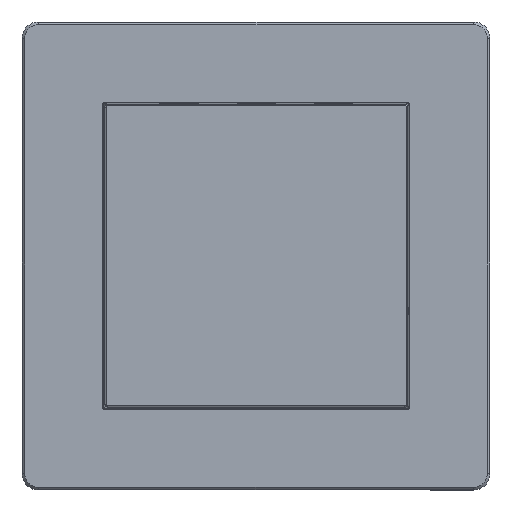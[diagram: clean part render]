
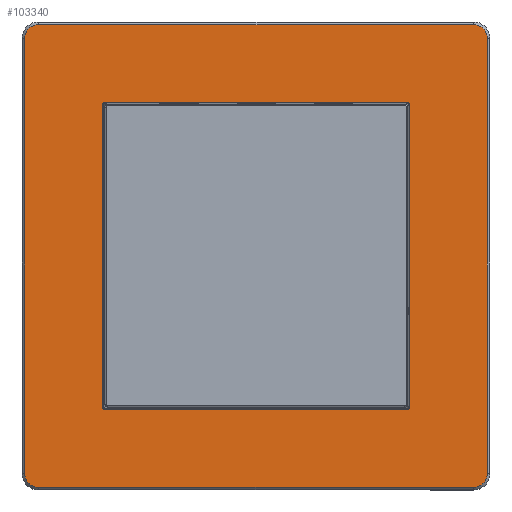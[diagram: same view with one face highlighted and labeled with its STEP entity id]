
A CAD part, top view. The second image highlights one B-rep face of the part: STEP entity #103340.
In plain terms, the highlighted planar face has unit normal (0, 0, 1) as drawn and (0, 1, 0) by its records, which use the part's own axes.
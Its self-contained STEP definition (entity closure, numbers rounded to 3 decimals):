
#5102=FACE_BOUND('',#18662,.T.);
#7890=PLANE('',#110436);
#12662=FACE_OUTER_BOUND('',#18661,.T.);
#18661=EDGE_LOOP('',(#90585,#90586,#90587,#90588,#90589,#90590,#90591,#90592));
#18662=EDGE_LOOP('',(#90593,#90594,#90595,#90596,#90597,#90598,#90599,#90600));
#28554=LINE('',#178685,#38852);
#28558=LINE('',#178697,#38856);
#28562=LINE('',#178708,#38860);
#28566=LINE('',#178717,#38864);
#28570=LINE('',#178729,#38868);
#28571=LINE('',#178733,#38869);
#28572=LINE('',#178737,#38870);
#28573=LINE('',#178741,#38871);
#38852=VECTOR('',#131604,79.);
#38856=VECTOR('',#131616,79.);
#38860=VECTOR('',#131628,79.);
#38864=VECTOR('',#131638,79.);
#38868=VECTOR('',#131654,54.8);
#38869=VECTOR('',#131657,54.8);
#38870=VECTOR('',#131660,54.8);
#38871=VECTOR('',#131663,54.8);
#42145=CIRCLE('',#110422,2.5);
#42147=CIRCLE('',#110426,2.5);
#42148=CIRCLE('',#110429,2.5);
#42149=CIRCLE('',#110432,2.5);
#42150=CIRCLE('',#110437,0.5);
#42151=CIRCLE('',#110438,0.5);
#42152=CIRCLE('',#110439,0.5);
#42153=CIRCLE('',#110440,0.5);
#50350=VERTEX_POINT('',#178682);
#50351=VERTEX_POINT('',#178684);
#50353=VERTEX_POINT('',#178690);
#50355=VERTEX_POINT('',#178695);
#50357=VERTEX_POINT('',#178702);
#50358=VERTEX_POINT('',#178706);
#50359=VERTEX_POINT('',#178711);
#50360=VERTEX_POINT('',#178715);
#50361=VERTEX_POINT('',#178727);
#50362=VERTEX_POINT('',#178728);
#50363=VERTEX_POINT('',#178730);
#50364=VERTEX_POINT('',#178732);
#50365=VERTEX_POINT('',#178734);
#50366=VERTEX_POINT('',#178736);
#50367=VERTEX_POINT('',#178738);
#50368=VERTEX_POINT('',#178740);
#64089=EDGE_CURVE('',#50350,#50351,#28554,.T.);
#64093=EDGE_CURVE('',#50353,#50350,#42145,.T.);
#64095=EDGE_CURVE('',#50355,#50353,#28558,.T.);
#64099=EDGE_CURVE('',#50357,#50355,#42147,.T.);
#64101=EDGE_CURVE('',#50358,#50357,#28562,.T.);
#64104=EDGE_CURVE('',#50359,#50358,#42148,.T.);
#64106=EDGE_CURVE('',#50360,#50359,#28566,.T.);
#64107=EDGE_CURVE('',#50351,#50360,#42149,.T.);
#64111=EDGE_CURVE('',#50361,#50362,#28570,.T.);
#64112=EDGE_CURVE('',#50363,#50362,#42150,.T.);
#64113=EDGE_CURVE('',#50363,#50364,#28571,.T.);
#64114=EDGE_CURVE('',#50365,#50364,#42151,.T.);
#64115=EDGE_CURVE('',#50365,#50366,#28572,.T.);
#64116=EDGE_CURVE('',#50367,#50366,#42152,.T.);
#64117=EDGE_CURVE('',#50367,#50368,#28573,.T.);
#64118=EDGE_CURVE('',#50361,#50368,#42153,.T.);
#90585=ORIENTED_EDGE('',*,*,#64089,.F.);
#90586=ORIENTED_EDGE('',*,*,#64093,.F.);
#90587=ORIENTED_EDGE('',*,*,#64095,.F.);
#90588=ORIENTED_EDGE('',*,*,#64099,.F.);
#90589=ORIENTED_EDGE('',*,*,#64101,.F.);
#90590=ORIENTED_EDGE('',*,*,#64104,.F.);
#90591=ORIENTED_EDGE('',*,*,#64106,.F.);
#90592=ORIENTED_EDGE('',*,*,#64107,.F.);
#90593=ORIENTED_EDGE('',*,*,#64111,.T.);
#90594=ORIENTED_EDGE('',*,*,#64112,.F.);
#90595=ORIENTED_EDGE('',*,*,#64113,.T.);
#90596=ORIENTED_EDGE('',*,*,#64114,.F.);
#90597=ORIENTED_EDGE('',*,*,#64115,.T.);
#90598=ORIENTED_EDGE('',*,*,#64116,.F.);
#90599=ORIENTED_EDGE('',*,*,#64117,.T.);
#90600=ORIENTED_EDGE('',*,*,#64118,.F.);
#103340=ADVANCED_FACE('',(#12662,#5102),#7890,.T.);
#110422=AXIS2_PLACEMENT_3D('',#178692,#131611,#131612);
#110426=AXIS2_PLACEMENT_3D('',#178704,#131623,#131624);
#110429=AXIS2_PLACEMENT_3D('',#178713,#131633,#131634);
#110432=AXIS2_PLACEMENT_3D('',#178719,#131641,#131642);
#110436=AXIS2_PLACEMENT_3D('',#178726,#131652,#131653);
#110437=AXIS2_PLACEMENT_3D('',#178731,#131655,#131656);
#110438=AXIS2_PLACEMENT_3D('',#178735,#131658,#131659);
#110439=AXIS2_PLACEMENT_3D('',#178739,#131661,#131662);
#110440=AXIS2_PLACEMENT_3D('',#178742,#131664,#131665);
#131604=DIRECTION('',(1.,0.,0.));
#131611=DIRECTION('center_axis',(0.,-1.,0.));
#131612=DIRECTION('ref_axis',(-0.707,0.,-0.707));
#131616=DIRECTION('',(0.,0.,-1.));
#131623=DIRECTION('center_axis',(0.,-1.,0.));
#131624=DIRECTION('ref_axis',(-0.707,0.,0.707));
#131628=DIRECTION('',(-1.,0.,0.));
#131633=DIRECTION('center_axis',(0.,-1.,0.));
#131634=DIRECTION('ref_axis',(0.707,0.,0.707));
#131638=DIRECTION('',(0.,0.,1.));
#131641=DIRECTION('center_axis',(0.,-1.,0.));
#131642=DIRECTION('ref_axis',(0.707,0.,-0.707));
#131652=DIRECTION('center_axis',(0.,1.,0.));
#131653=DIRECTION('ref_axis',(0.,0.,1.));
#131654=DIRECTION('',(0.,0.,-1.));
#131655=DIRECTION('center_axis',(0.,1.,0.));
#131656=DIRECTION('ref_axis',(-0.707,0.,-0.707));
#131657=DIRECTION('',(1.,0.,0.));
#131658=DIRECTION('center_axis',(0.,1.,0.));
#131659=DIRECTION('ref_axis',(0.707,0.,-0.707));
#131660=DIRECTION('',(0.,0.,1.));
#131661=DIRECTION('center_axis',(0.,1.,0.));
#131662=DIRECTION('ref_axis',(0.707,0.,0.707));
#131663=DIRECTION('',(-1.,0.,0.));
#131664=DIRECTION('center_axis',(0.,1.,0.));
#131665=DIRECTION('ref_axis',(-0.707,0.,0.707));
#178682=CARTESIAN_POINT('',(-49.5,8.5,-77.4));
#178684=CARTESIAN_POINT('',(29.5,8.5,-77.4));
#178685=CARTESIAN_POINT('',(-49.5,8.5,-77.4));
#178690=CARTESIAN_POINT('',(-52.,8.5,-74.9));
#178692=CARTESIAN_POINT('Origin',(-49.5,8.5,-74.9));
#178695=CARTESIAN_POINT('',(-52.,8.5,4.1));
#178697=CARTESIAN_POINT('',(-52.,8.5,4.1));
#178702=CARTESIAN_POINT('',(-49.5,8.5,6.6));
#178704=CARTESIAN_POINT('Origin',(-49.5,8.5,4.1));
#178706=CARTESIAN_POINT('',(29.5,8.5,6.6));
#178708=CARTESIAN_POINT('',(29.5,8.5,6.6));
#178711=CARTESIAN_POINT('',(32.,8.5,4.1));
#178713=CARTESIAN_POINT('Origin',(29.5,8.5,4.1));
#178715=CARTESIAN_POINT('',(32.,8.5,-74.9));
#178717=CARTESIAN_POINT('',(32.,8.5,-74.9));
#178719=CARTESIAN_POINT('Origin',(29.5,8.5,-74.9));
#178726=CARTESIAN_POINT('Origin',(-10.,8.5,-35.4));
#178727=CARTESIAN_POINT('',(-37.9,8.5,-8.));
#178728=CARTESIAN_POINT('',(-37.9,8.5,-62.8));
#178729=CARTESIAN_POINT('',(-37.9,8.5,-8.));
#178730=CARTESIAN_POINT('',(-37.4,8.5,-63.3));
#178731=CARTESIAN_POINT('Origin',(-37.4,8.5,-62.8));
#178732=CARTESIAN_POINT('',(17.4,8.5,-63.3));
#178733=CARTESIAN_POINT('',(-37.4,8.5,-63.3));
#178734=CARTESIAN_POINT('',(17.9,8.5,-62.8));
#178735=CARTESIAN_POINT('Origin',(17.4,8.5,-62.8));
#178736=CARTESIAN_POINT('',(17.9,8.5,-8.));
#178737=CARTESIAN_POINT('',(17.9,8.5,-62.8));
#178738=CARTESIAN_POINT('',(17.4,8.5,-7.5));
#178739=CARTESIAN_POINT('Origin',(17.4,8.5,-8.));
#178740=CARTESIAN_POINT('',(-37.4,8.5,-7.5));
#178741=CARTESIAN_POINT('',(17.4,8.5,-7.5));
#178742=CARTESIAN_POINT('Origin',(-37.4,8.5,-8.));
